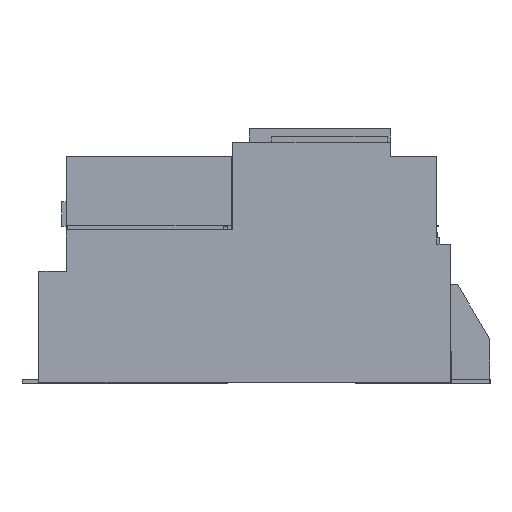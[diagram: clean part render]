
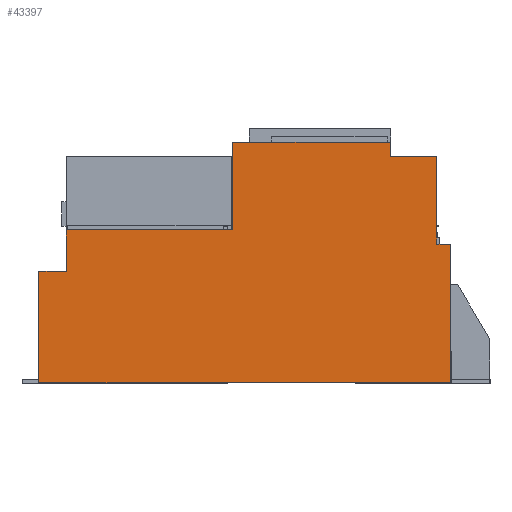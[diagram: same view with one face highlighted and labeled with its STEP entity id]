
A CAD part, left-side view. The second image highlights one B-rep face of the part: STEP entity #43397.
In plain terms, the highlighted planar face has unit normal (-1, 0, 0).
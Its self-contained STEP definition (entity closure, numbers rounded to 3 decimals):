
#1007=DIRECTION('',(0.,0.,1.));
#1008=VECTOR('',#1007,64.1);
#1009=CARTESIAN_POINT('',(0.,10.,100.9));
#1010=LINE('',#1009,#1008);
#5141=DIRECTION('',(0.,0.,-1.));
#5142=VECTOR('',#5141,81.05);
#5143=CARTESIAN_POINT('',(0.,300.,81.05));
#5144=LINE('',#5143,#5142);
#5315=DIRECTION('',(0.,1.,0.));
#5316=VECTOR('',#5315,20.);
#5317=CARTESIAN_POINT('',(0.,280.,81.05));
#5318=LINE('',#5317,#5316);
#6349=DIRECTION('',(0.,0.,-1.));
#6350=VECTOR('',#6349,30.126);
#6351=CARTESIAN_POINT('',(0.,280.,111.176));
#6352=LINE('',#6351,#6350);
#6384=DIRECTION('',(0.,1.,0.));
#6385=VECTOR('',#6384,121.2);
#6386=CARTESIAN_POINT('',(0.,158.8,111.176));
#6387=LINE('',#6386,#6385);
#8509=DIRECTION('',(0.,0.,1.));
#8510=VECTOR('',#8509,10.);
#8511=CARTESIAN_POINT('',(0.,43.8,165.));
#8512=LINE('',#8511,#8510);
#8530=DIRECTION('',(0.,1.,0.));
#8531=VECTOR('',#8530,33.8);
#8532=CARTESIAN_POINT('',(0.,10.,165.));
#8533=LINE('',#8532,#8531);
#8537=DIRECTION('',(0.,0.,1.));
#8538=VECTOR('',#8537,63.824);
#8539=CARTESIAN_POINT('',(0.,158.8,111.176));
#8540=LINE('',#8539,#8538);
#8544=DIRECTION('',(0.,-1.,0.));
#8545=VECTOR('',#8544,115.);
#8546=CARTESIAN_POINT('',(0.,158.8,175.));
#8547=LINE('',#8546,#8545);
#8551=DIRECTION('',(0.,-1.,0.));
#8552=VECTOR('',#8551,10.);
#8553=CARTESIAN_POINT('',(0.,10.,100.9));
#8554=LINE('',#8553,#8552);
#8558=DIRECTION('',(0.,0.,-1.));
#8559=VECTOR('',#8558,100.9);
#8560=CARTESIAN_POINT('',(0.,0.,100.9));
#8561=LINE('',#8560,#8559);
#8565=DIRECTION('',(0.,1.,0.));
#8566=VECTOR('',#8565,300.);
#8567=CARTESIAN_POINT('',(0.,0.,0.));
#8568=LINE('',#8567,#8566);
#31819=CARTESIAN_POINT('',(0.,43.8,165.));
#31820=VERTEX_POINT('',#31819);
#31821=CARTESIAN_POINT('',(0.,43.8,175.));
#31822=VERTEX_POINT('',#31821);
#31855=CARTESIAN_POINT('',(0.,158.8,175.));
#31856=VERTEX_POINT('',#31855);
#32008=CARTESIAN_POINT('',(0.,280.,111.176));
#32009=CARTESIAN_POINT('',(0.,280.,81.05));
#32010=VERTEX_POINT('',#32008);
#32011=VERTEX_POINT('',#32009);
#32012=CARTESIAN_POINT('',(0.,158.8,111.176));
#32013=VERTEX_POINT('',#32012);
#32014=CARTESIAN_POINT('',(0.,10.,165.));
#32015=VERTEX_POINT('',#32014);
#32016=CARTESIAN_POINT('',(0.,10.,100.9));
#32017=VERTEX_POINT('',#32016);
#32018=CARTESIAN_POINT('',(0.,0.,100.9));
#32019=VERTEX_POINT('',#32018);
#32020=CARTESIAN_POINT('',(0.,0.,0.));
#32021=VERTEX_POINT('',#32020);
#32022=CARTESIAN_POINT('',(0.,300.,0.));
#32023=VERTEX_POINT('',#32022);
#32024=CARTESIAN_POINT('',(0.,300.,81.05));
#32025=VERTEX_POINT('',#32024);
#43378=CARTESIAN_POINT('',(0.,300.,0.));
#43379=DIRECTION('',(-1.,0.,0.));
#43380=DIRECTION('',(0.,-1.,0.));
#43381=AXIS2_PLACEMENT_3D('',#43378,#43379,#43380);
#43382=PLANE('',#43381);
#43383=ORIENTED_EDGE('',*,*,#41368,.F.);
#43384=ORIENTED_EDGE('',*,*,#41407,.F.);
#43385=ORIENTED_EDGE('',*,*,#41475,.T.);
#43386=ORIENTED_EDGE('',*,*,#43089,.T.);
#43387=ORIENTED_EDGE('',*,*,#43349,.F.);
#43388=ORIENTED_EDGE('',*,*,#43362,.F.);
#43389=ORIENTED_EDGE('',*,*,#36960,.F.);
#43390=ORIENTED_EDGE('',*,*,#36434,.T.);
#43391=ORIENTED_EDGE('',*,*,#36357,.T.);
#43392=ORIENTED_EDGE('',*,*,#40109,.T.);
#43393=ORIENTED_EDGE('',*,*,#40272,.F.);
#43394=ORIENTED_EDGE('',*,*,#40371,.F.);
#43395=EDGE_LOOP('',(#43383,#43384,#43385,#43386,#43387,#43388,#43389,#43390,
#43391,#43392,#43393,#43394));
#43396=FACE_OUTER_BOUND('',#43395,.F.);
#36357=EDGE_CURVE('',#32019,#32021,#8561,.T.);
#36434=EDGE_CURVE('',#32017,#32019,#8554,.T.);
#36960=EDGE_CURVE('',#32017,#32015,#1010,.T.);
#40109=EDGE_CURVE('',#32021,#32023,#8568,.T.);
#40272=EDGE_CURVE('',#32025,#32023,#5144,.T.);
#40371=EDGE_CURVE('',#32011,#32025,#5318,.T.);
#41368=EDGE_CURVE('',#32010,#32011,#6352,.T.);
#41407=EDGE_CURVE('',#32013,#32010,#6387,.T.);
#41475=EDGE_CURVE('',#32013,#31856,#8540,.T.);
#43089=EDGE_CURVE('',#31856,#31822,#8547,.T.);
#43349=EDGE_CURVE('',#31820,#31822,#8512,.T.);
#43362=EDGE_CURVE('',#32015,#31820,#8533,.T.);
#43397=ADVANCED_FACE('',(#43396),#43382,.T.);
